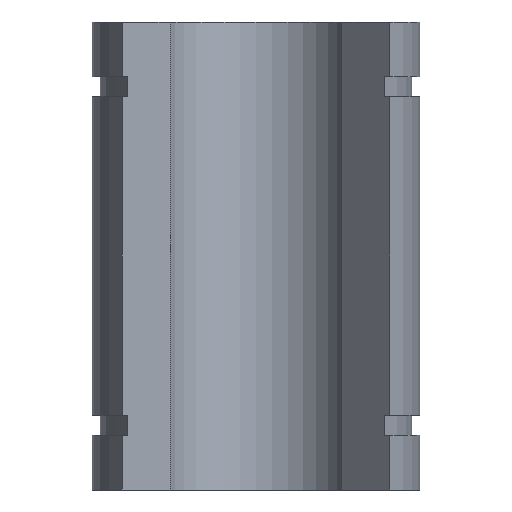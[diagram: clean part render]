
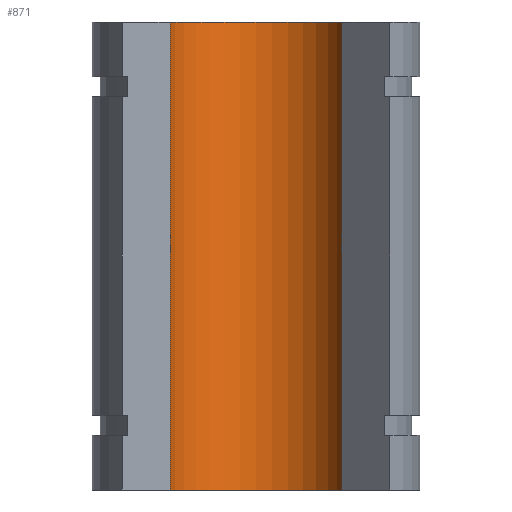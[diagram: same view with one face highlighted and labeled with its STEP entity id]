
A CAD part, front view. The second image highlights one B-rep face of the part: STEP entity #871.
In plain terms, the highlighted cylindrical face has radius 6 mm (diameter 12 mm), a partial arc.
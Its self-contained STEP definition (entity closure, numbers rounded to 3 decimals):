
#49=CARTESIAN_POINT('',(6.,0.,0.0));
#50=VERTEX_POINT('',#49);
#51=CARTESIAN_POINT('',(6.,0.,30.0));
#52=VERTEX_POINT('',#51);
#53=CARTESIAN_POINT('',(6.,0.,0.0));
#54=DIRECTION('',(0.0,0.0,1.0));
#55=VECTOR('',#54,30.0);
#56=LINE('',#53,#55);
#57=EDGE_CURVE('',#50,#52,#56,.T.);
#91=CARTESIAN_POINT('',(-6.,0.,30.0));
#92=VERTEX_POINT('',#91);
#93=CARTESIAN_POINT('',(-6.,0.,0.0));
#94=VERTEX_POINT('',#93);
#95=CARTESIAN_POINT('',(-6.,0.,30.0));
#96=DIRECTION('',(0.0,0.0,-1.0));
#97=VECTOR('',#96,30.0);
#98=LINE('',#95,#97);
#99=EDGE_CURVE('',#92,#94,#98,.T.);
#814=CARTESIAN_POINT('',(0.0,0.0,30.0));
#815=DIRECTION('',(0.0,0.0,-1.0));
#816=DIRECTION('',(-1.0,0.0,0.0));
#817=AXIS2_PLACEMENT_3D('',#814,#815,#816);
#818=CIRCLE('',#817,6.);
#819=EDGE_CURVE('',#92,#52,#818,.T.);
#832=CARTESIAN_POINT('',(0.0,0.0,0.0));
#833=DIRECTION('',(0.0,0.0,1.0));
#834=DIRECTION('',(-1.0,0.0,0.0));
#835=AXIS2_PLACEMENT_3D('',#832,#833,#834);
#836=CIRCLE('',#835,6.);
#837=EDGE_CURVE('',#50,#94,#836,.T.);
#860=CARTESIAN_POINT('',(0.0,0.0,0.0));
#861=DIRECTION('',(0.0,0.0,1.0));
#862=DIRECTION('',(-1.0,0.0,0.0));
#863=AXIS2_PLACEMENT_3D('',#860,#861,#862);
#864=CYLINDRICAL_SURFACE('',#863,6.);
#865=ORIENTED_EDGE('',*,*,#99,.T.);
#866=ORIENTED_EDGE('',*,*,#837,.F.);
#867=ORIENTED_EDGE('',*,*,#57,.T.);
#868=ORIENTED_EDGE('',*,*,#819,.F.);
#869=EDGE_LOOP('',(#865,#866,#867,#868));
#870=FACE_OUTER_BOUND('',#869,.T.);
#871=ADVANCED_FACE('',(#870),#864,.F.);
